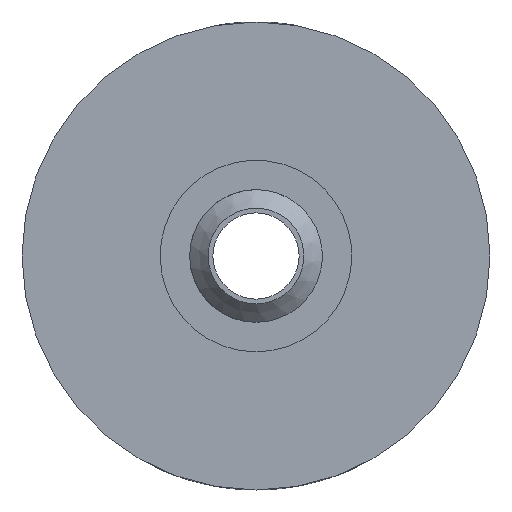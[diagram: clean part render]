
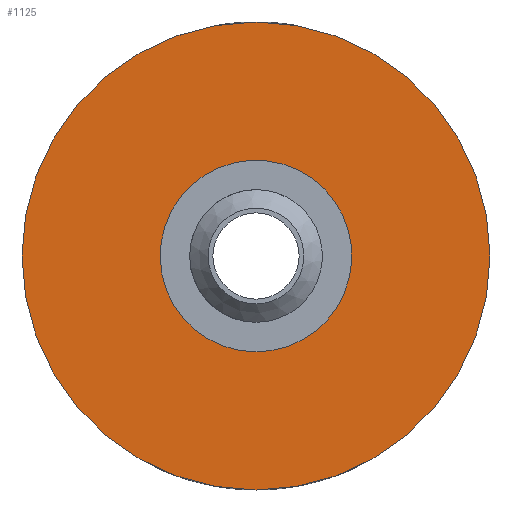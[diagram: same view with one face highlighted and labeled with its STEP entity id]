
A CAD part, left-side view. The second image highlights one B-rep face of the part: STEP entity #1125.
In plain terms, the highlighted planar face has unit normal (-1, 0, 0).
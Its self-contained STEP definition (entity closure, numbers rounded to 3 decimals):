
#44=PLANE('',#1265);
#228=CIRCLE('',#1247,1.3);
#229=CIRCLE('',#1248,1.3);
#232=CIRCLE('',#1252,3.175);
#239=CIRCLE('',#1259,3.175);
#252=FACE_BOUND('',#349,.T.);
#276=FACE_OUTER_BOUND('',#348,.T.);
#348=EDGE_LOOP('',(#900,#901));
#349=EDGE_LOOP('',(#902,#903));
#528=VERTEX_POINT('',#2075);
#529=VERTEX_POINT('',#2076);
#532=VERTEX_POINT('',#2085);
#533=VERTEX_POINT('',#2086);
#659=EDGE_CURVE('',#528,#529,#228,.T.);
#660=EDGE_CURVE('',#529,#528,#229,.T.);
#664=EDGE_CURVE('',#532,#533,#232,.T.);
#677=EDGE_CURVE('',#533,#532,#239,.T.);
#900=ORIENTED_EDGE('',*,*,#664,.F.);
#901=ORIENTED_EDGE('',*,*,#677,.F.);
#902=ORIENTED_EDGE('',*,*,#659,.T.);
#903=ORIENTED_EDGE('',*,*,#660,.T.);
#1125=ADVANCED_FACE('',(#276,#252),#44,.F.);
#1247=AXIS2_PLACEMENT_3D('',#2077,#1411,#1412);
#1248=AXIS2_PLACEMENT_3D('',#2078,#1413,#1414);
#1252=AXIS2_PLACEMENT_3D('',#2087,#1422,#1423);
#1259=AXIS2_PLACEMENT_3D('',#2134,#1440,#1441);
#1265=AXIS2_PLACEMENT_3D('',#2453,#1455,#1456);
#1411=DIRECTION('center_axis',(1.,0.,0.));
#1412=DIRECTION('ref_axis',(0.,0.,-1.));
#1413=DIRECTION('center_axis',(1.,0.,0.));
#1414=DIRECTION('ref_axis',(0.,0.,-1.));
#1422=DIRECTION('center_axis',(1.,0.,0.));
#1423=DIRECTION('ref_axis',(0.,0.,-1.));
#1440=DIRECTION('center_axis',(1.,0.,0.));
#1441=DIRECTION('ref_axis',(0.,0.,-1.));
#1455=DIRECTION('center_axis',(1.,0.,0.));
#1456=DIRECTION('ref_axis',(0.,0.,-1.));
#2075=CARTESIAN_POINT('',(-4.75,0.,-1.3));
#2076=CARTESIAN_POINT('',(-4.75,-0.764,1.052));
#2077=CARTESIAN_POINT('Origin',(-4.75,0.,0.));
#2078=CARTESIAN_POINT('Origin',(-4.75,0.,0.));
#2085=CARTESIAN_POINT('',(-4.75,0.,3.175));
#2086=CARTESIAN_POINT('',(-4.75,0.,-3.175));
#2087=CARTESIAN_POINT('Origin',(-4.75,0.,0.));
#2134=CARTESIAN_POINT('Origin',(-4.75,0.,0.));
#2453=CARTESIAN_POINT('Origin',(-4.75,0.,0.));
